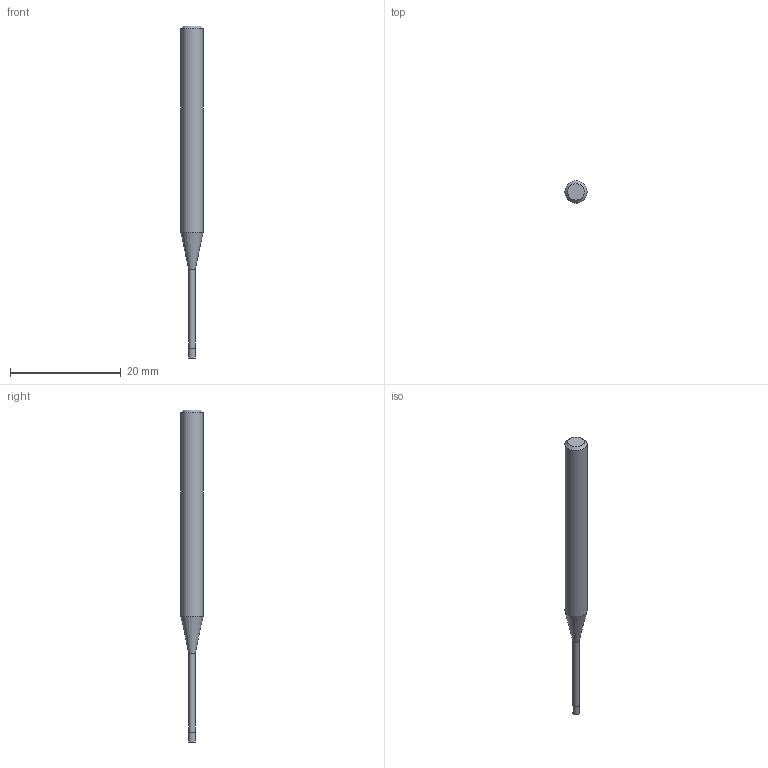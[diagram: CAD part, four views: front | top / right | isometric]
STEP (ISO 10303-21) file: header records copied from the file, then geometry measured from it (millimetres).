
FILE_DESCRIPTION((''),'2;1');
FILE_NAME('C:\Users\nsx150\AppData\Local\Temp\Mastercam 2021\17T8Q8S9EB\TEMP.step','2021-04-21T14:26:17',(''),(''),'STEP Write','Mastercam 2021 ... CNC Software, Inc.','');
FILE_SCHEMA(('AUTOMOTIVE_DESIGN'));
Length unit declared in the file: millimetre
Products named in the file (1): None
Bounding box: 4 x 4 x 60 mm (x, y, z)
Volume: 522.5 mm3; surface area: 594.1 mm2
Topology: 2 solids, 2 shells, 9 faces, 12 edges, 7 vertices
Faces by surface type: plane 4, cylinder 3, cone 2
Full cylindrical faces by diameter (mm): 1.15 x1, 1.2 x1, 4 x1
Entity records: 211 total; most frequent: DIRECTION 36, CARTESIAN_POINT 25, AXIS2_PLACEMENT_3D 18, ORIENTED_EDGE 14, EDGE_LOOP 14, STYLED_ITEM 12, ADVANCED_FACE 9, FACE_BOUND 8
